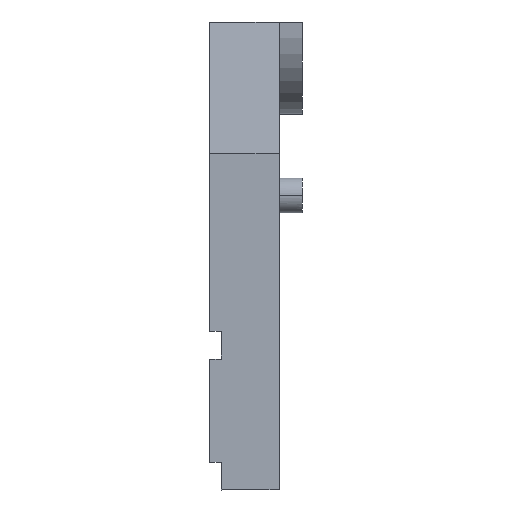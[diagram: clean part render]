
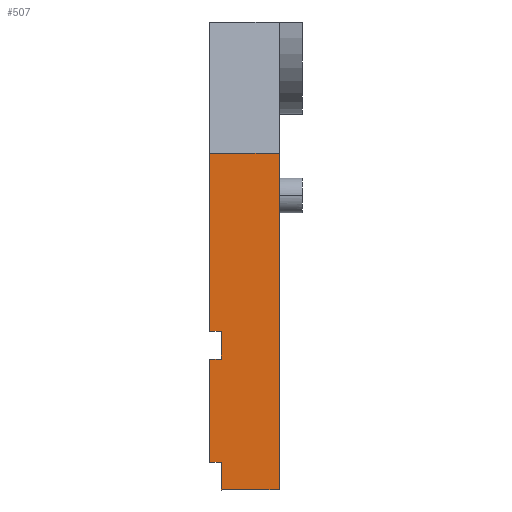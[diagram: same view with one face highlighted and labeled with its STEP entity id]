
A CAD part, front view. The second image highlights one B-rep face of the part: STEP entity #507.
In plain terms, the highlighted planar face has unit normal (0, -1, 0).
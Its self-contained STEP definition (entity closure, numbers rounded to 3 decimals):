
#507=ADVANCED_FACE('',(#757),#2595,.T.);
#757=FACE_OUTER_BOUND('',#1017,.F.);
#1017=EDGE_LOOP('',(#1399,#1400,#1401,#1402,#1403,#1404,#1405,#1406,#1407,
#1408));
#1399=ORIENTED_EDGE('',*,*,#4998,.F.);
#1400=ORIENTED_EDGE('',*,*,#4990,.T.);
#1401=ORIENTED_EDGE('',*,*,#4986,.T.);
#1402=ORIENTED_EDGE('',*,*,#4995,.T.);
#1403=ORIENTED_EDGE('',*,*,#4981,.T.);
#1404=ORIENTED_EDGE('',*,*,#4984,.T.);
#1405=ORIENTED_EDGE('',*,*,#4978,.T.);
#1406=ORIENTED_EDGE('',*,*,#4976,.T.);
#1407=ORIENTED_EDGE('',*,*,#4997,.T.);
#1408=ORIENTED_EDGE('',*,*,#4867,.T.);
#2595=PLANE('',#6552);
#4206=LINE('',#8698,#4536);
#4255=LINE('',#8807,#4585);
#4257=LINE('',#8809,#4587);
#4260=LINE('',#8812,#4590);
#4263=LINE('',#8815,#4593);
#4265=LINE('',#8817,#4595);
#4269=LINE('',#8821,#4599);
#4274=LINE('',#8826,#4604);
#4276=LINE('',#8828,#4606);
#4277=LINE('',#8829,#4607);
#4536=VECTOR('',#6828,145.572);
#4585=VECTOR('',#6997,76.997);
#4587=VECTOR('',#6999,5.);
#4590=VECTOR('',#7002,5.);
#4593=VECTOR('',#7005,12.);
#4595=VECTOR('',#7007,5.);
#4599=VECTOR('',#7011,12.);
#4604=VECTOR('',#7016,44.575);
#4606=VECTOR('',#7018,30.);
#4607=VECTOR('',#7019,25.);
#4867=EDGE_CURVE('',#6220,#6219,#4206,.T.);
#4976=EDGE_CURVE('',#6123,#6122,#4255,.T.);
#4978=EDGE_CURVE('',#6119,#6123,#4257,.T.);
#4981=EDGE_CURVE('',#6116,#6115,#4260,.T.);
#4984=EDGE_CURVE('',#6115,#6119,#4263,.T.);
#4986=EDGE_CURVE('',#6113,#6112,#4265,.T.);
#4990=EDGE_CURVE('',#6109,#6113,#4269,.T.);
#4995=EDGE_CURVE('',#6112,#6116,#4274,.T.);
#4997=EDGE_CURVE('',#6122,#6220,#4276,.T.);
#4998=EDGE_CURVE('',#6109,#6219,#4277,.T.);
#6109=VERTEX_POINT('',#8578);
#6112=VERTEX_POINT('',#8581);
#6113=VERTEX_POINT('',#8582);
#6115=VERTEX_POINT('',#8584);
#6116=VERTEX_POINT('',#8585);
#6119=VERTEX_POINT('',#8588);
#6122=VERTEX_POINT('',#8591);
#6123=VERTEX_POINT('',#8592);
#6219=VERTEX_POINT('',#8688);
#6220=VERTEX_POINT('',#8689);
#6552=AXIS2_PLACEMENT_3D('',#9307,#7736,#7737);
#6828=DIRECTION('',(0.,0.,-1.));
#6997=DIRECTION('',(0.,0.,1.));
#6999=DIRECTION('',(-1.,0.,0.));
#7002=DIRECTION('',(1.,0.,0.));
#7005=DIRECTION('',(0.,0.,1.));
#7007=DIRECTION('',(-1.,0.,0.));
#7011=DIRECTION('',(0.,0.,1.));
#7016=DIRECTION('',(0.,0.,1.));
#7018=DIRECTION('',(1.,0.,0.));
#7019=DIRECTION('',(1.,0.,0.));
#7736=DIRECTION('',(0.,-1.,0.));
#7737=DIRECTION('',(0.,0.,1.));
#8578=CARTESIAN_POINT('',(914.375,369.252,254.589));
#8581=CARTESIAN_POINT('',(909.375,369.252,266.589));
#8582=CARTESIAN_POINT('',(914.375,369.252,266.589));
#8584=CARTESIAN_POINT('',(914.375,369.252,311.164));
#8585=CARTESIAN_POINT('',(909.375,369.252,311.164));
#8588=CARTESIAN_POINT('',(914.375,369.252,323.164));
#8591=CARTESIAN_POINT('',(909.375,369.252,400.161));
#8592=CARTESIAN_POINT('',(909.375,369.252,323.164));
#8688=CARTESIAN_POINT('',(939.375,369.252,254.589));
#8689=CARTESIAN_POINT('',(939.375,369.252,400.161));
#8698=CARTESIAN_POINT('',(939.375,369.252,400.161));
#8807=CARTESIAN_POINT('',(909.375,369.252,323.164));
#8809=CARTESIAN_POINT('',(914.375,369.252,323.164));
#8812=CARTESIAN_POINT('',(909.375,369.252,311.164));
#8815=CARTESIAN_POINT('',(914.375,369.252,311.164));
#8817=CARTESIAN_POINT('',(914.375,369.252,266.589));
#8821=CARTESIAN_POINT('',(914.375,369.252,254.589));
#8826=CARTESIAN_POINT('',(909.375,369.252,266.589));
#8828=CARTESIAN_POINT('',(909.375,369.252,400.161));
#8829=CARTESIAN_POINT('',(914.375,369.252,254.589));
#9307=CARTESIAN_POINT('',(950.831,369.252,253.133));
